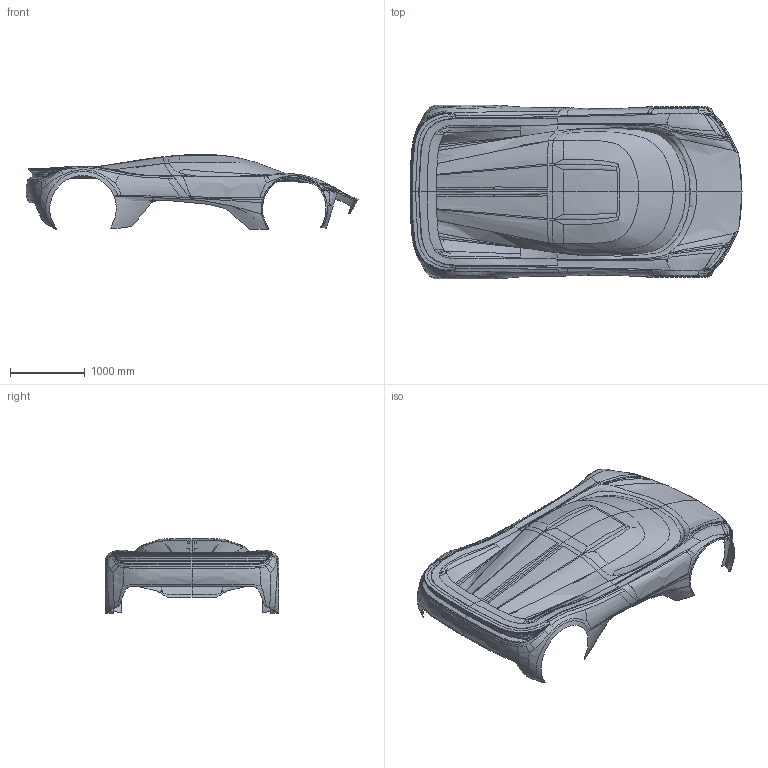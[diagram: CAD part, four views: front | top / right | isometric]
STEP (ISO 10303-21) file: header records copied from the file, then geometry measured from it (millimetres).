
FILE_DESCRIPTION(('Liger macro NURBS open sheets'),'2;1');
FILE_NAME('Body_Main_Shell.step','2026-11-01T00:00:00',(''),(''),'Slate','SolidArc','');
FILE_SCHEMA(('AUTOMOTIVE_DESIGN { 1 0 10303 214 1 1 1 1 }'));
Length unit declared in the file: millimetre
Products named in the file (1): Body_Main_Shell
Bounding box: 4440.2 x 2322.25 x 1000.86 mm (x, y, z)
Surface area: 14622980.7 mm2 (no closed solid volume)
Topology: 0 solids, 2 shells, 282 faces, 825 edges, 538 vertices
Faces by surface type: bspline 282
Entity records: 47543 total; most frequent: CARTESIAN_POINT 42672, ORIENTED_EDGE 1540, B_SPLINE_CURVE_WITH_KNOTS 825, EDGE_CURVE 825, VERTEX_POINT 538, B_SPLINE_SURFACE_WITH_KNOTS 282, EDGE_LOOP 282, FACE_OUTER_BOUND 282
